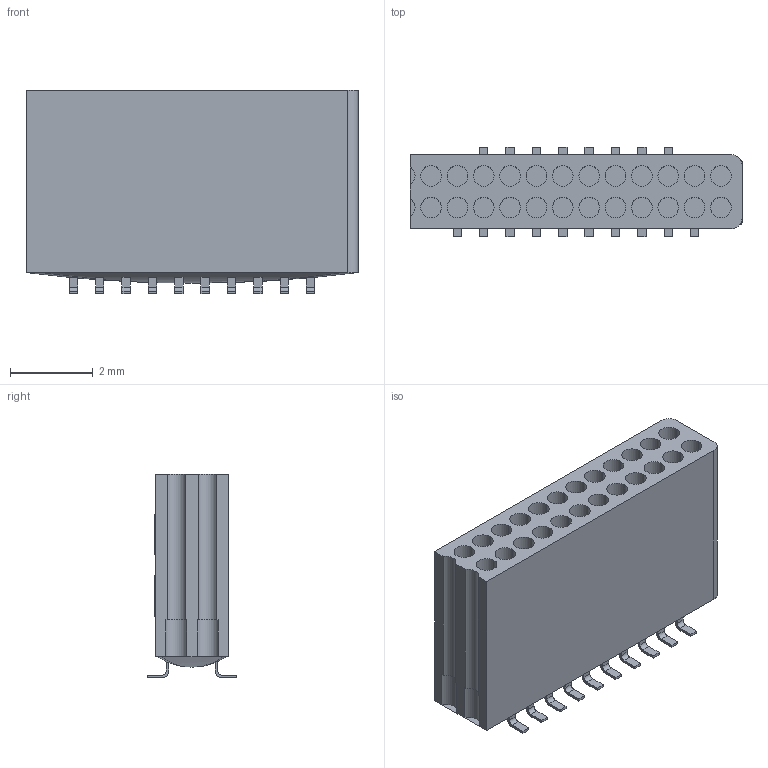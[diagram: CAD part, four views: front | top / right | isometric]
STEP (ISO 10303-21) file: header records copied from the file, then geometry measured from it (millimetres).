
FILE_DESCRIPTION (( 'STEP AP214' ), '1' );
FILE_NAME ('A79018-001 REV D.STEP', '2015-11-06T11:52:47', ( '' ), ( '' ), 'SwSTEP 2.0', 'SolidWorks 2015', '' );
FILE_SCHEMA (( 'AUTOMOTIVE_DESIGN' ));
Length unit declared in the file: inch
Products named in the file (1): A79018-001
Bounding box: 8 x 2.16 x 4.9 mm (x, y, z)
Volume: 42.1 mm3; surface area: 296.1 mm2
Topology: 1 solids, 1 shells, 491 faces, 1225 edges, 809 vertices
Faces by surface type: plane 297, cylinder 142, bspline 52
Entity records: 17195 total; most frequent: CARTESIAN_POINT 5510, ORIENTED_EDGE 2442, DIRECTION 2293, EDGE_CURVE 1221, VERTEX_POINT 809, VECTOR 789, LINE 789, AXIS2_PLACEMENT_3D 752
